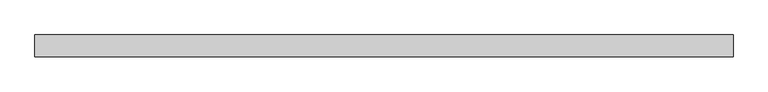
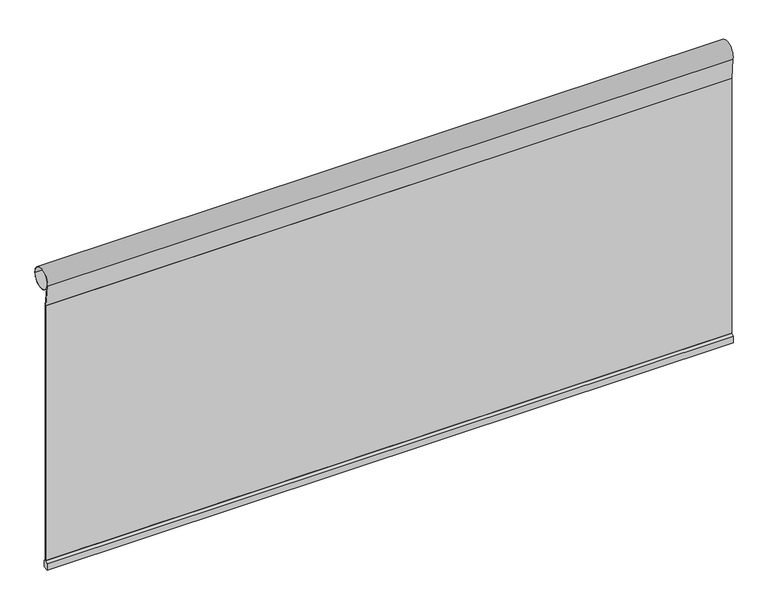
"""IFC4 building model written with IfcOpenShell, lengths in millimetres: proxy geometry, Renson_Camargue_Fixscreen : Renson_Camargue_Fixscreen."""

from ifc_helpers import new_model, si_unit, point, frame, frame_2d, origin, place, context, project, spatial, polyline, circle_curve, trimmed, segment, composite_curve, outline, extrude, source, transform, mapped, element, save


def generic_models_059fa392(model_context):
    return source(origin(), model_context, "Body", "SweptSolid", [
        extrude(outline(polyline([(-15.0, 750.0), (-15.0, 787.0), (-1.5, 796.0), (1.5, 796.0), (15.0, 787.0), (15.0, 750.0), (-15.0, 750.0)])), frame((-1850.0, 0.0, 0.0), z_axis=(1.0, 0.0, 0.0), x_axis=(0.0, 1.0, 0.0)), (0.0, 0.0, 1.0), 3700.0),
        extrude(outline(composite_curve([segment(polyline([(-1.5, 2250.0), (-13.7636779, 2367.640466)]), True, "CONTINUOUS"), segment(trimmed(circle_curve(frame_2d((42.5, 2379.5)), 57.5), [point((-13.7636779, 2367.640466))], [point((-9.4252469, 2354.8014427))], False, "CARTESIAN"), True, "CONTINUOUS"), segment(polyline([(-9.4252469, 2354.8014427), (1.5, 2250.0), (-1.5, 2250.0)]), True, "CONTINUOUS")], self_intersect=False), holes=[composite_curve([segment(trimmed(circle_curve(frame_2d((42.5, 2379.5)), 55.5), [point((-13.0, 2379.5))], [point((98.0, 2379.5))], True, "CARTESIAN"), True, "CONTINUOUS"), segment(trimmed(circle_curve(frame_2d((42.5, 2379.5)), 55.5), [point((98.0, 2379.5))], [point((-13.0, 2379.5))], True, "CARTESIAN"), True, "CONTINUOUS")], self_intersect=False)]), frame((-1850.0, 0.0, 0.0), z_axis=(1.0, 0.0, 0.0), x_axis=(0.0, 1.0, 0.0)), (0.0, 0.0, 1.0), 3700.0),
        extrude(outline(polyline([(1850.0, 1.5), (1850.0, -1.5), (-1850.0, -1.5), (-1850.0, 1.5), (1850.0, 1.5)])), frame((0.0, 0.0, 796.0), z_axis=(0.0, 0.0, 1.0), x_axis=(1.0, 0.0, 0.0)), (0.0, 0.0, 1.0), 1454.0),
    ])


if __name__ == "__main__":
    model = new_model("IFC4")
    model_context = context("Model", 3, world=origin())
    ifc_project = project(units=[si_unit("LENGTHUNIT", "METRE", prefix="MILLI")], contexts=[model_context])
    site = spatial("IfcSite", under=ifc_project)
    building = spatial("IfcBuilding", under=site)
    placement = place(None, origin())
    generic_models_shape = generic_models_059fa392(model_context)
    element("IfcBuildingElementProxy", 1, Name="Renson_Camargue_Fixscreen : Renson_Camargue_Fixscreen", ObjectType="Renson_Camargue_Fixscreen : Renson_Camargue_Fixscreen", at=placement, inside=building, context=model_context, shape_type="MappedRepresentation", body=[
        mapped(generic_models_shape, transform((0.0, 0.0, 0.0), x_axis=(1.0, 0.0, 0.0), y_axis=(0.0, 1.0, 0.0), z_axis=(0.0, 0.0, 1.0))),
    ])
    save(model, "model.ifc")
